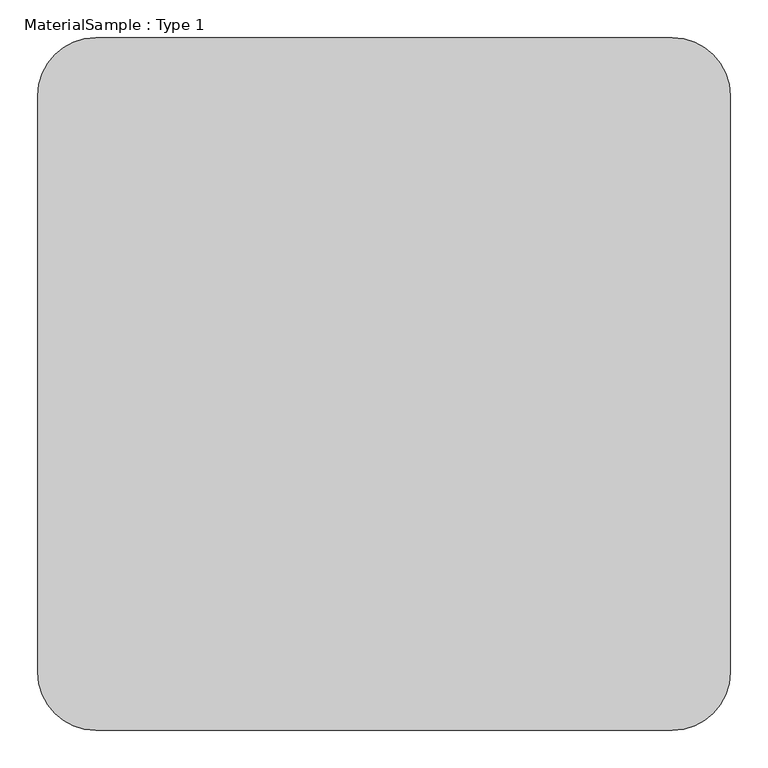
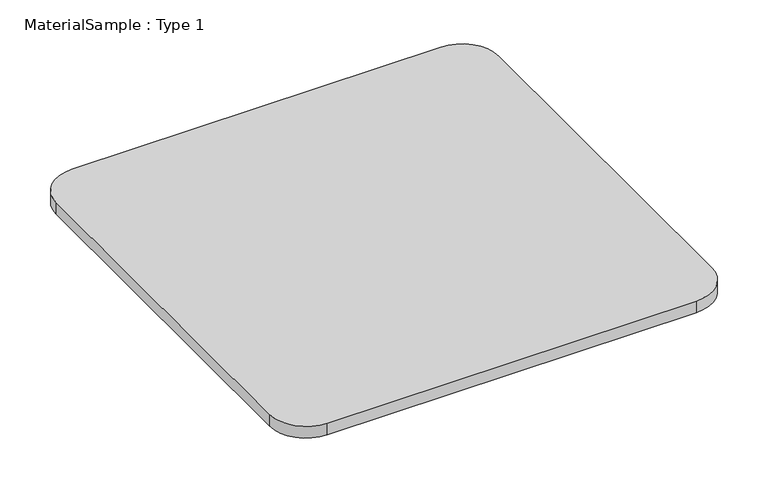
"""IFC4 building model written with IfcOpenShell, lengths in millimetres: proxy geometry, MaterialSample : Type 1."""

from ifc_helpers import new_model, si_unit, point, frame_2d, origin, origin_with_axes, place, context, project, spatial, polyline, circle_curve, trimmed, segment, composite_curve, outline, extrude, source, transform, mapped, element, save


def materialsample_type_1_cfafc0c5(model_context):
    return source(origin(), model_context, "Body", "SweptSolid", [
        extrude(outline(composite_curve([segment(polyline([(838.2, 0.0), (76.2, 0.0)]), True, "CONTINUOUS"), segment(trimmed(circle_curve(frame_2d((76.2, 76.2)), 76.2), [point((76.2, 0.0))], [point((0.0, 76.2))], False, "CARTESIAN"), True, "CONTINUOUS"), segment(polyline([(0.0, 76.2), (0.0, 838.2)]), True, "CONTINUOUS"), segment(trimmed(circle_curve(frame_2d((76.2, 838.2)), 76.2), [point((0.0, 838.2))], [point((76.2, 914.4))], False, "CARTESIAN"), True, "CONTINUOUS"), segment(polyline([(76.2, 914.4), (838.2, 914.4)]), True, "CONTINUOUS"), segment(trimmed(circle_curve(frame_2d((838.2, 838.2)), 76.2), [point((838.2, 914.4))], [point((914.4, 838.2))], False, "CARTESIAN"), True, "CONTINUOUS"), segment(polyline([(914.4, 838.2), (914.4, 76.2)]), True, "CONTINUOUS"), segment(trimmed(circle_curve(frame_2d((838.2, 76.2)), 76.2), [point((914.4, 76.2))], [point((838.2, 0.0))], False, "CARTESIAN"), True, "CONTINUOUS")], self_intersect=False)), origin_with_axes(), (0.0, 0.0, 1.0), 25.4),
    ])


if __name__ == "__main__":
    model = new_model("IFC4")
    model_context = context("Model", 3, world=origin())
    ifc_project = project(units=[si_unit("LENGTHUNIT", "METRE", prefix="MILLI")], contexts=[model_context])
    site = spatial("IfcSite", under=ifc_project)
    building = spatial("IfcBuilding", under=site)
    placement = place(None, origin())
    materialsample_type_1_shape = materialsample_type_1_cfafc0c5(model_context)
    element("IfcBuildingElementProxy", 1, Name="MaterialSample : Type 1", ObjectType="MaterialSample : Type 1", at=placement, inside=building, context=model_context, shape_type="MappedRepresentation", body=[
        mapped(materialsample_type_1_shape, transform((0.0, 0.0, 0.0), x_axis=(1.0, 0.0, 0.0), y_axis=(0.0, 1.0, 0.0), z_axis=(0.0, 0.0, 1.0))),
    ])
    save(model, "model.ifc")
